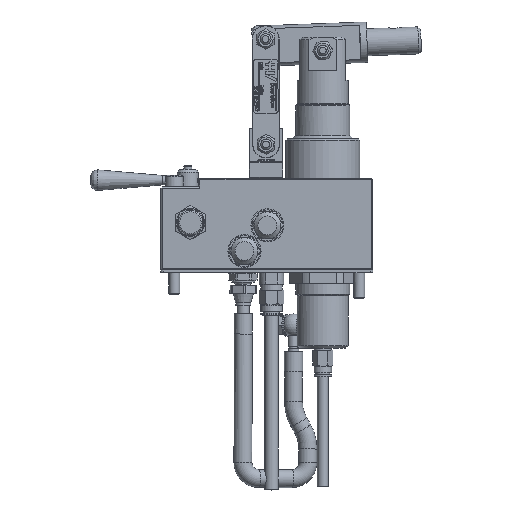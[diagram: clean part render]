
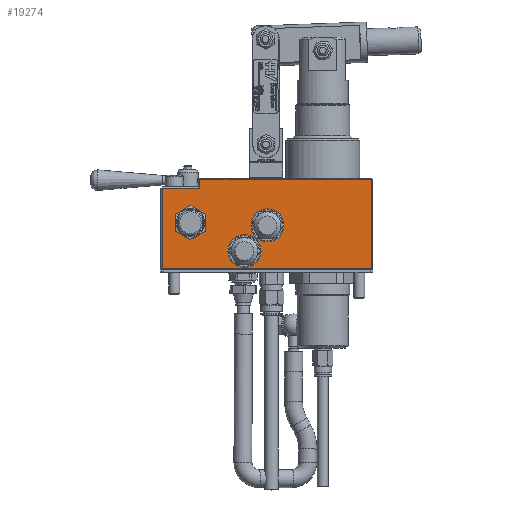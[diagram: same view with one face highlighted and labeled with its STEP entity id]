
A CAD part, left-side view. The second image highlights one B-rep face of the part: STEP entity #19274.
In plain terms, the highlighted planar face has unit normal (-1, 0, 0).
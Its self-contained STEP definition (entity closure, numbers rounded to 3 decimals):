
#17828=CARTESIAN_POINT('',(-34.,124.5,-932.197));
#17829=VERTEX_POINT('',#17828);
#17830=CARTESIAN_POINT('',(-34.,135.,-932.197));
#17831=DIRECTION('',(1.0,0.0,0.0));
#17832=DIRECTION('',(0.0,-1.0,0.0));
#17833=AXIS2_PLACEMENT_3D('',#17830,#17831,#17832);
#17834=CIRCLE('',#17833,10.5);
#17835=EDGE_CURVE('',#17829,#17829,#17834,.T.);
#18424=CARTESIAN_POINT('',(-34.,128.,-900.197));
#18425=VERTEX_POINT('',#18424);
#18476=CARTESIAN_POINT('',(-34.,156.,-906.697));
#18477=VERTEX_POINT('',#18476);
#18517=CARTESIAN_POINT('',(-34.,128.,-906.697));
#18518=VERTEX_POINT('',#18517);
#18519=CARTESIAN_POINT('',(-34.,156.,-906.697));
#18520=DIRECTION('',(0.0,-1.0,0.0));
#18521=VECTOR('',#18520,28.);
#18522=LINE('',#18519,#18521);
#18523=EDGE_CURVE('',#18477,#18518,#18522,.T.);
#18591=CARTESIAN_POINT('',(-34.,1.,-900.197));
#18592=VERTEX_POINT('',#18591);
#18698=CARTESIAN_POINT('',(-34.,156.,-966.197));
#18699=VERTEX_POINT('',#18698);
#18720=CARTESIAN_POINT('',(-34.,1.,-966.197));
#18721=VERTEX_POINT('',#18720);
#18768=CARTESIAN_POINT('',(-34.,1.,-900.197));
#18769=DIRECTION('',(0.0,0.0,-1.0));
#18770=VECTOR('',#18769,66.0);
#18771=LINE('',#18768,#18770);
#18772=EDGE_CURVE('',#18592,#18721,#18771,.T.);
#18792=CARTESIAN_POINT('',(-34.,1.,-966.197));
#18793=DIRECTION('',(0.0,1.0,0.0));
#18794=VECTOR('',#18793,155.0);
#18795=LINE('',#18792,#18794);
#18796=EDGE_CURVE('',#18721,#18699,#18795,.T.);
#18814=CARTESIAN_POINT('',(-34.,156.,-966.197));
#18815=DIRECTION('',(0.0,0.0,1.0));
#18816=VECTOR('',#18815,59.5);
#18817=LINE('',#18814,#18816);
#18818=EDGE_CURVE('',#18699,#18477,#18817,.T.);
#18863=CARTESIAN_POINT('',(-34.,128.,-900.197));
#18864=DIRECTION('',(0.0,-1.0,0.0));
#18865=VECTOR('',#18864,127.);
#18866=LINE('',#18863,#18865);
#18867=EDGE_CURVE('',#18425,#18592,#18866,.T.);
#18918=CARTESIAN_POINT('',(-34.,128.,-906.697));
#18919=DIRECTION('',(0.0,0.0,1.0));
#18920=VECTOR('',#18919,6.5);
#18921=LINE('',#18918,#18920);
#18922=EDGE_CURVE('',#18518,#18425,#18921,.T.);
#19236=CARTESIAN_POINT('',(-34.,0.,-967.197));
#19237=DIRECTION('',(-1.0,0.0,0.0));
#19238=DIRECTION('',(0.0,0.0,-1.0));
#19239=AXIS2_PLACEMENT_3D('',#19236,#19237,#19238);
#19240=PLANE('',#19239);
#19241=ORIENTED_EDGE('',*,*,#18772,.F.);
#19242=ORIENTED_EDGE('',*,*,#18867,.F.);
#19243=ORIENTED_EDGE('',*,*,#18922,.F.);
#19244=ORIENTED_EDGE('',*,*,#18523,.F.);
#19245=ORIENTED_EDGE('',*,*,#18818,.F.);
#19246=ORIENTED_EDGE('',*,*,#18796,.F.);
#19247=EDGE_LOOP('',(#19241,#19242,#19243,#19244,#19245,#19246));
#19248=FACE_OUTER_BOUND('',#19247,.T.);
#19249=ORIENTED_EDGE('',*,*,#17835,.T.);
#19250=EDGE_LOOP('',(#19249));
#19251=FACE_BOUND('',#19250,.T.);
#19252=CARTESIAN_POINT('',(-34.,65.75,-934.197));
#19253=VERTEX_POINT('',#19252);
#19254=CARTESIAN_POINT('',(-34.,78.,-934.197));
#19255=DIRECTION('',(1.0,0.0,0.0));
#19256=DIRECTION('',(0.0,-1.0,0.0));
#19257=AXIS2_PLACEMENT_3D('',#19254,#19255,#19256);
#19258=CIRCLE('',#19257,12.25);
#19259=EDGE_CURVE('',#19253,#19253,#19258,.T.);
#19260=ORIENTED_EDGE('',*,*,#19259,.T.);
#19261=EDGE_LOOP('',(#19260));
#19262=FACE_BOUND('',#19261,.T.);
#19263=CARTESIAN_POINT('',(-34.,82.75,-953.197));
#19264=VERTEX_POINT('',#19263);
#19265=CARTESIAN_POINT('',(-34.,95.,-953.197));
#19266=DIRECTION('',(1.0,0.0,0.0));
#19267=DIRECTION('',(0.0,-1.0,0.0));
#19268=AXIS2_PLACEMENT_3D('',#19265,#19266,#19267);
#19269=CIRCLE('',#19268,12.25);
#19270=EDGE_CURVE('',#19264,#19264,#19269,.T.);
#19271=ORIENTED_EDGE('',*,*,#19270,.T.);
#19272=EDGE_LOOP('',(#19271));
#19273=FACE_BOUND('',#19272,.T.);
#19274=ADVANCED_FACE('',(#19248,#19251,#19262,#19273),#19240,.T.);
